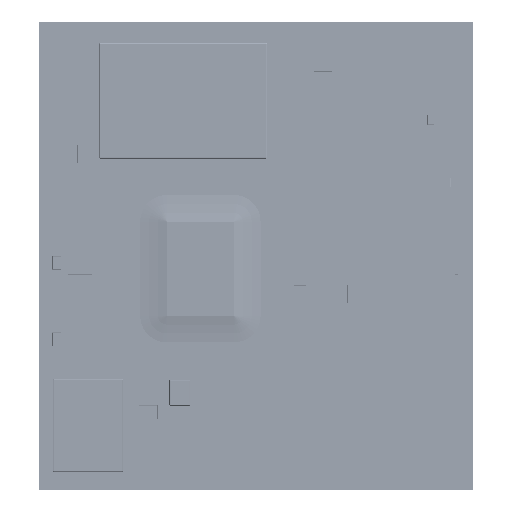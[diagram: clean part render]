
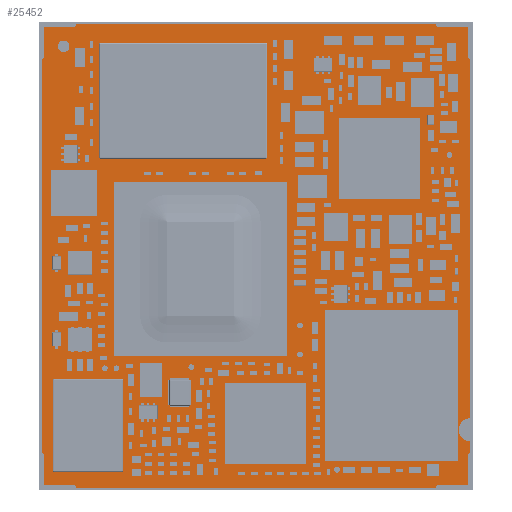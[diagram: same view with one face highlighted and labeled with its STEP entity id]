
A CAD part, top view. The second image highlights one B-rep face of the part: STEP entity #25452.
In plain terms, the highlighted planar face has unit normal (0, 0, 1).
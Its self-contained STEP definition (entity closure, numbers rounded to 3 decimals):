
#25452=ADVANCED_FACE('',(#46156),#46157,.T.);
#46156=FACE_OUTER_BOUND('',#66045,.T.);
#46157=PLANE('',#66046);
#66045=EDGE_LOOP('',(#101263,#101264,#101265,#101266,#101267,#101268,#101269,#101270,#101271,#101272,#101273,#101274,#101275,#101276,#101277,#101278,#101279,#101280,#101281,#101282,#101283,#101284));
#66046=AXIS2_PLACEMENT_3D('',#101285,#101286,#101287);
#101263=ORIENTED_EDGE('',*,*,#114068,.T.);
#101264=ORIENTED_EDGE('',*,*,#114069,.T.);
#101265=ORIENTED_EDGE('',*,*,#114070,.T.);
#101266=ORIENTED_EDGE('',*,*,#114071,.T.);
#101267=ORIENTED_EDGE('',*,*,#114072,.T.);
#101268=ORIENTED_EDGE('',*,*,#114073,.T.);
#101269=ORIENTED_EDGE('',*,*,#114074,.T.);
#101270=ORIENTED_EDGE('',*,*,#114075,.T.);
#101271=ORIENTED_EDGE('',*,*,#114076,.T.);
#101272=ORIENTED_EDGE('',*,*,#114077,.T.);
#101273=ORIENTED_EDGE('',*,*,#114078,.T.);
#101274=ORIENTED_EDGE('',*,*,#114079,.T.);
#101275=ORIENTED_EDGE('',*,*,#114080,.T.);
#101276=ORIENTED_EDGE('',*,*,#114081,.T.);
#101277=ORIENTED_EDGE('',*,*,#114082,.T.);
#101278=ORIENTED_EDGE('',*,*,#114083,.T.);
#101279=ORIENTED_EDGE('',*,*,#114084,.T.);
#101280=ORIENTED_EDGE('',*,*,#114085,.T.);
#101281=ORIENTED_EDGE('',*,*,#114086,.T.);
#101282=ORIENTED_EDGE('',*,*,#114087,.T.);
#101283=ORIENTED_EDGE('',*,*,#114088,.T.);
#101284=ORIENTED_EDGE('',*,*,#114089,.T.);
#101285=CARTESIAN_POINT('',(18.425,19.689,1.531));
#101286=DIRECTION('',(0.,0.,1.0));
#101287=DIRECTION('',(1.0,-0.0,0.));
#114068=EDGE_CURVE('',#131279,#131280,#131281,.T.);
#114069=EDGE_CURVE('',#131280,#131282,#131283,.T.);
#114070=EDGE_CURVE('',#131282,#131284,#131285,.T.);
#114071=EDGE_CURVE('',#131284,#131286,#131287,.T.);
#114072=EDGE_CURVE('',#131286,#131288,#131289,.T.);
#114073=EDGE_CURVE('',#131288,#131290,#131291,.T.);
#114074=EDGE_CURVE('',#131290,#131292,#131293,.T.);
#114075=EDGE_CURVE('',#131292,#131294,#131295,.T.);
#114076=EDGE_CURVE('',#131294,#131296,#131297,.T.);
#114077=EDGE_CURVE('',#131296,#131298,#131299,.T.);
#114078=EDGE_CURVE('',#131298,#131300,#131301,.T.);
#114079=EDGE_CURVE('',#131300,#131302,#131303,.T.);
#114080=EDGE_CURVE('',#131302,#131304,#131305,.T.);
#114081=EDGE_CURVE('',#131304,#131306,#131307,.T.);
#114082=EDGE_CURVE('',#131306,#131308,#131309,.T.);
#114083=EDGE_CURVE('',#131308,#131310,#131311,.T.);
#114084=EDGE_CURVE('',#131310,#131312,#131313,.T.);
#114085=EDGE_CURVE('',#131312,#131314,#131315,.T.);
#114086=EDGE_CURVE('',#131314,#131316,#131317,.T.);
#114087=EDGE_CURVE('',#131316,#131318,#131319,.T.);
#114088=EDGE_CURVE('',#131318,#131320,#131321,.T.);
#114089=EDGE_CURVE('',#131320,#131279,#131322,.T.);
#131279=VERTEX_POINT('',#151302);
#131280=VERTEX_POINT('',#151303);
#131281=CIRCLE('',#151304,0.2);
#131282=VERTEX_POINT('',#151305);
#131283=LINE('',#151306,#151307);
#131284=VERTEX_POINT('',#151308);
#131285=LINE('',#151309,#151310);
#131286=VERTEX_POINT('',#151311);
#131287=CIRCLE('',#151312,0.2);
#131288=VERTEX_POINT('',#151313);
#131289=LINE('',#151314,#151315);
#131290=VERTEX_POINT('',#151316);
#131291=CIRCLE('',#151317,0.2);
#131292=VERTEX_POINT('',#151318);
#131293=LINE('',#151319,#151320);
#131294=VERTEX_POINT('',#151321);
#131295=LINE('',#151322,#151323);
#131296=VERTEX_POINT('',#151324);
#131297=CIRCLE('',#151325,0.2);
#131298=VERTEX_POINT('',#151326);
#131299=LINE('',#151327,#151328);
#131300=VERTEX_POINT('',#151329);
#131301=CIRCLE('',#151330,1.0);
#131302=VERTEX_POINT('',#151331);
#131303=LINE('',#151332,#151333);
#131304=VERTEX_POINT('',#151334);
#131305=CIRCLE('',#151335,0.2);
#131306=VERTEX_POINT('',#151336);
#131307=LINE('',#151337,#151338);
#131308=VERTEX_POINT('',#151339);
#131309=LINE('',#151340,#151341);
#131310=VERTEX_POINT('',#151342);
#131311=CIRCLE('',#151343,0.2);
#131312=VERTEX_POINT('',#151344);
#131313=LINE('',#151345,#151346);
#131314=VERTEX_POINT('',#151347);
#131315=CIRCLE('',#151348,0.2);
#131316=VERTEX_POINT('',#151349);
#131317=LINE('',#151350,#151351);
#131318=VERTEX_POINT('',#151352);
#131319=LINE('',#151353,#151354);
#131320=VERTEX_POINT('',#151355);
#131321=CIRCLE('',#151356,0.2);
#131322=LINE('',#151357,#151358);
#151302=CARTESIAN_POINT('',(-0.2,2.8,1.531));
#151303=CARTESIAN_POINT('',(0.,2.6,1.531));
#151304=AXIS2_PLACEMENT_3D('',#166623,#166624,#166625);
#151305=CARTESIAN_POINT('',(0.,0.,1.531));
#151306=CARTESIAN_POINT('',(0.,1.3,1.531));
#151307=VECTOR('',#166626,1.0);
#151308=CARTESIAN_POINT('',(2.6,0.,1.531));
#151309=CARTESIAN_POINT('',(1.3,0.,1.531));
#151310=VECTOR('',#166627,1.0);
#151311=CARTESIAN_POINT('',(2.8,-0.2,1.531));
#151312=AXIS2_PLACEMENT_3D('',#166628,#166629,#166630);
#151313=CARTESIAN_POINT('',(33.8,-0.2,1.531));
#151314=CARTESIAN_POINT('',(18.3,-0.2,1.531));
#151315=VECTOR('',#166631,1.0);
#151316=CARTESIAN_POINT('',(34.0,0.,1.531));
#151317=AXIS2_PLACEMENT_3D('',#166632,#166633,#166634);
#151318=CARTESIAN_POINT('',(36.6,0.,1.531));
#151319=CARTESIAN_POINT('',(35.3,0.,1.531));
#151320=VECTOR('',#166635,1.0);
#151321=CARTESIAN_POINT('',(36.6,2.6,1.531));
#151322=CARTESIAN_POINT('',(36.6,1.3,1.531));
#151323=VECTOR('',#166636,1.0);
#151324=CARTESIAN_POINT('',(36.8,2.8,1.531));
#151325=AXIS2_PLACEMENT_3D('',#166637,#166638,#166639);
#151326=CARTESIAN_POINT('',(36.8,3.8,1.531));
#151327=CARTESIAN_POINT('',(36.8,3.3,1.531));
#151328=VECTOR('',#166640,1.0);
#151329=CARTESIAN_POINT('',(36.8,5.8,1.531));
#151330=AXIS2_PLACEMENT_3D('',#166641,#166642,#166643);
#151331=CARTESIAN_POINT('',(36.8,36.8,1.531));
#151332=CARTESIAN_POINT('',(36.8,21.3,1.531));
#151333=VECTOR('',#166644,1.0);
#151334=CARTESIAN_POINT('',(36.6,37.0,1.531));
#151335=AXIS2_PLACEMENT_3D('',#166645,#166646,#166647);
#151336=CARTESIAN_POINT('',(36.6,39.6,1.531));
#151337=CARTESIAN_POINT('',(36.6,38.3,1.531));
#151338=VECTOR('',#166648,1.0);
#151339=CARTESIAN_POINT('',(34.0,39.6,1.531));
#151340=CARTESIAN_POINT('',(35.3,39.6,1.531));
#151341=VECTOR('',#166649,1.0);
#151342=CARTESIAN_POINT('',(33.8,39.8,1.531));
#151343=AXIS2_PLACEMENT_3D('',#166650,#166651,#166652);
#151344=CARTESIAN_POINT('',(2.8,39.8,1.531));
#151345=CARTESIAN_POINT('',(18.3,39.8,1.531));
#151346=VECTOR('',#166653,1.0);
#151347=CARTESIAN_POINT('',(2.6,39.6,1.531));
#151348=AXIS2_PLACEMENT_3D('',#166654,#166655,#166656);
#151349=CARTESIAN_POINT('',(0.,39.6,1.531));
#151350=CARTESIAN_POINT('',(1.3,39.6,1.531));
#151351=VECTOR('',#166657,1.0);
#151352=CARTESIAN_POINT('',(0.,37.0,1.531));
#151353=CARTESIAN_POINT('',(0.,38.3,1.531));
#151354=VECTOR('',#166658,1.0);
#151355=CARTESIAN_POINT('',(-0.2,36.8,1.531));
#151356=AXIS2_PLACEMENT_3D('',#166659,#166660,#166661);
#151357=CARTESIAN_POINT('',(-0.2,19.8,1.531));
#151358=VECTOR('',#166662,1.0);
#166623=CARTESIAN_POINT('',(-0.2,2.6,1.531));
#166624=DIRECTION('',(0.0,0.0,-1.0));
#166625=DIRECTION('',(0.0,1.0,0.0));
#166626=DIRECTION('',(0.,-1.0,0.0));
#166627=DIRECTION('',(1.0,0.0,0.0));
#166628=CARTESIAN_POINT('',(2.6,-0.2,1.531));
#166629=DIRECTION('',(0.0,0.0,-1.0));
#166630=DIRECTION('',(0.0,1.0,0.0));
#166631=DIRECTION('',(1.0,0.0,0.0));
#166632=CARTESIAN_POINT('',(34.0,-0.2,1.531));
#166633=DIRECTION('',(0.0,0.0,-1.0));
#166634=DIRECTION('',(-1.0,0.0,0.0));
#166635=DIRECTION('',(1.0,0.,0.0));
#166636=DIRECTION('',(0.0,1.0,0.0));
#166637=CARTESIAN_POINT('',(36.8,2.6,1.531));
#166638=DIRECTION('',(0.0,0.0,-1.0));
#166639=DIRECTION('',(-1.0,0.0,0.0));
#166640=DIRECTION('',(0.0,1.0,0.0));
#166641=CARTESIAN_POINT('',(36.8,4.8,1.531));
#166642=DIRECTION('',(0.0,0.0,-1.0));
#166643=DIRECTION('',(0.0,-1.0,0.0));
#166644=DIRECTION('',(0.0,1.0,0.0));
#166645=CARTESIAN_POINT('',(36.8,37.0,1.531));
#166646=DIRECTION('',(0.0,0.0,-1.0));
#166647=DIRECTION('',(0.0,-1.0,0.0));
#166648=DIRECTION('',(0.,1.0,0.0));
#166649=DIRECTION('',(-1.0,0.0,0.0));
#166650=CARTESIAN_POINT('',(34.0,39.8,1.531));
#166651=DIRECTION('',(0.0,0.0,-1.0));
#166652=DIRECTION('',(0.0,-1.0,0.0));
#166653=DIRECTION('',(-1.0,0.0,0.0));
#166654=CARTESIAN_POINT('',(2.6,39.8,1.531));
#166655=DIRECTION('',(0.0,0.0,-1.0));
#166656=DIRECTION('',(1.0,0.0,0.0));
#166657=DIRECTION('',(-1.0,0.,0.0));
#166658=DIRECTION('',(0.0,-1.0,0.0));
#166659=CARTESIAN_POINT('',(-0.2,37.0,1.531));
#166660=DIRECTION('',(0.0,0.0,-1.0));
#166661=DIRECTION('',(1.0,0.0,0.0));
#166662=DIRECTION('',(0.0,-1.0,0.0));
